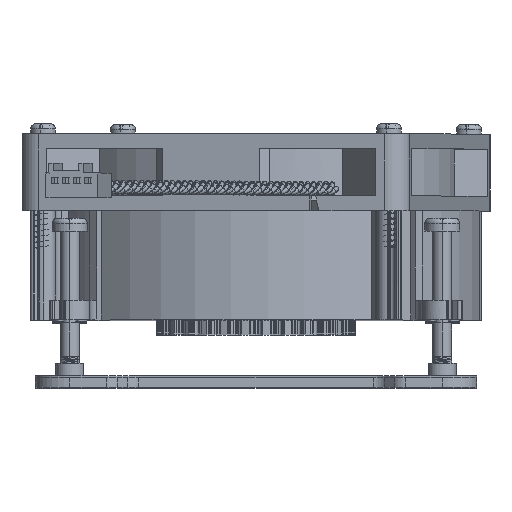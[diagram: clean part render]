
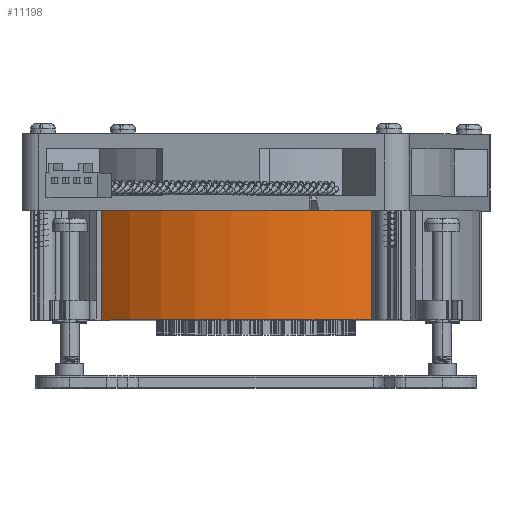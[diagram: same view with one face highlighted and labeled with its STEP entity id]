
A CAD part, top view. The second image highlights one B-rep face of the part: STEP entity #11198.
In plain terms, the highlighted cylindrical face has radius 45.1 mm (diameter 90.2 mm), a partial arc.
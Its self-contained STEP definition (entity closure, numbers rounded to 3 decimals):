
#14=DIRECTION('',(0.,-1.,0.));
#15=VECTOR('',#14,22.);
#16=CARTESIAN_POINT('',(1486.581,707.972,38.659));
#17=LINE('',#16,#15);
#373=CARTESIAN_POINT('',(1463.353,707.972,0.));
#374=DIRECTION('',(0.,-1.,0.));
#375=DIRECTION('',(0.515,0.,0.857));
#376=AXIS2_PLACEMENT_3D('',#373,#374,#375);
#691=CARTESIAN_POINT('',(1463.353,685.972,0.));
#692=DIRECTION('',(0.,-1.,0.));
#693=DIRECTION('',(0.515,0.,0.857));
#694=AXIS2_PLACEMENT_3D('',#691,#692,#693);
#7709=DIRECTION('',(0.,-1.,0.));
#7710=VECTOR('',#7709,22.);
#7711=CARTESIAN_POINT('',(1432.178,707.972,32.59));
#7712=LINE('',#7711,#7710);
#9988=CARTESIAN_POINT('',(1486.581,707.972,38.659));
#9989=CARTESIAN_POINT('',(1486.581,685.972,38.659));
#9990=VERTEX_POINT('',#9988);
#9991=VERTEX_POINT('',#9989);
#10386=CARTESIAN_POINT('',(1432.178,707.972,32.59));
#10387=CARTESIAN_POINT('',(1432.178,685.972,32.59));
#10388=VERTEX_POINT('',#10386);
#10389=VERTEX_POINT('',#10387);
#11184=CARTESIAN_POINT('',(1463.353,685.972,0.));
#11185=DIRECTION('',(0.,-1.,0.));
#11186=DIRECTION('',(1.,0.,0.));
#11187=AXIS2_PLACEMENT_3D('',#11184,#11185,#11186);
#11188=CYLINDRICAL_SURFACE('',#11187,45.1);
#11189=ORIENTED_EDGE('',*,*,#11125,.T.);
#11191=ORIENTED_EDGE('',*,*,#11190,.T.);
#11193=ORIENTED_EDGE('',*,*,#11192,.F.);
#11195=ORIENTED_EDGE('',*,*,#11194,.F.);
#11196=EDGE_LOOP('',(#11189,#11191,#11193,#11195));
#11197=FACE_OUTER_BOUND('',#11196,.F.);
#11198=ADVANCED_FACE('',(#11197),#11188,.T.);
#377=CIRCLE('',#376,45.1);
#695=CIRCLE('',#694,45.1);
#11125=EDGE_CURVE('',#9990,#9991,#17,.T.);
#11190=EDGE_CURVE('',#9991,#10389,#695,.T.);
#11192=EDGE_CURVE('',#10388,#10389,#7712,.T.);
#11194=EDGE_CURVE('',#9990,#10388,#377,.T.);
